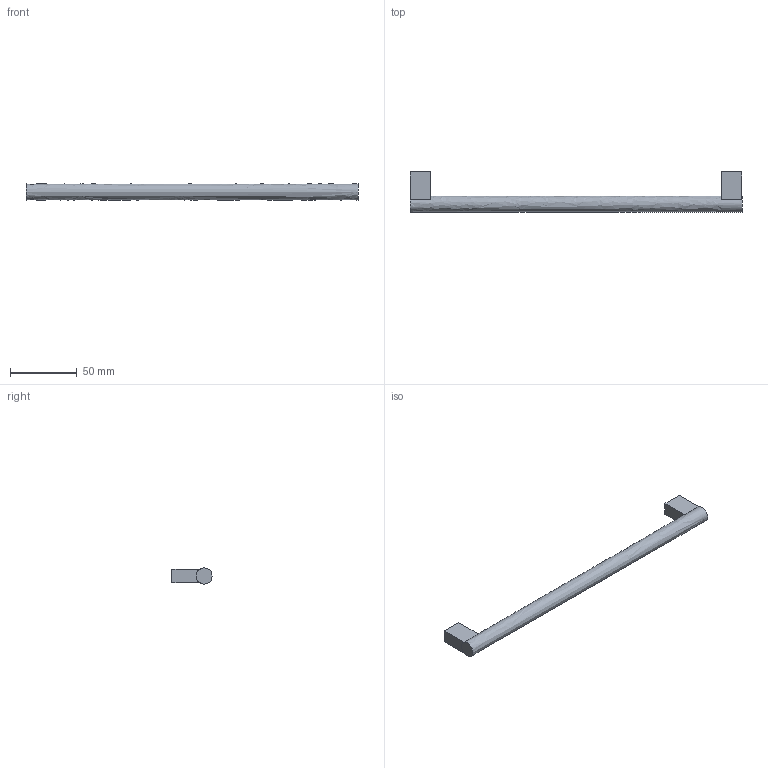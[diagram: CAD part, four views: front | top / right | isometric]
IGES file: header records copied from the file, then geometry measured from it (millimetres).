
Start section: Data from Parasolid IGES Translator 15.0.47, Copyright(c) 2006 Siemens P LM Software. All Rights Reserved.
Global section: file name: 9995501.igs; native system:  By UGS Corp.; preprocessor: XPlus GENERIC/IGES 3.0; author: Noname; organization: Noname; date: 20140122.144205; units: millimetre
Bounding box: 248 x 30 x 12 mm (x, y, z)
Surface area: 11714.8 mm2 (no closed solid volume)
Topology: 0 solids, 0 shells, 17 faces, 66 edges, 62 vertices
Faces by surface type: extrusion 14, revolution 3
